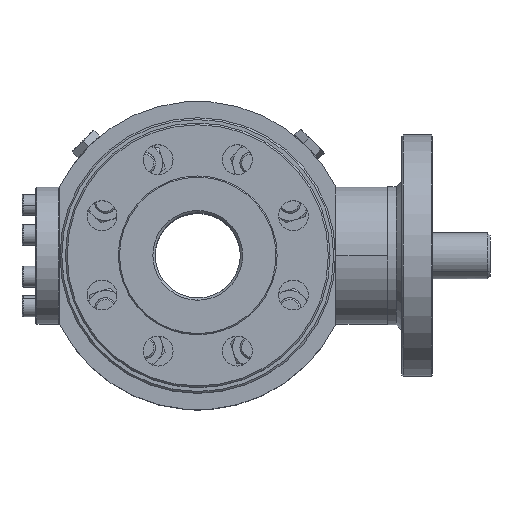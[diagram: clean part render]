
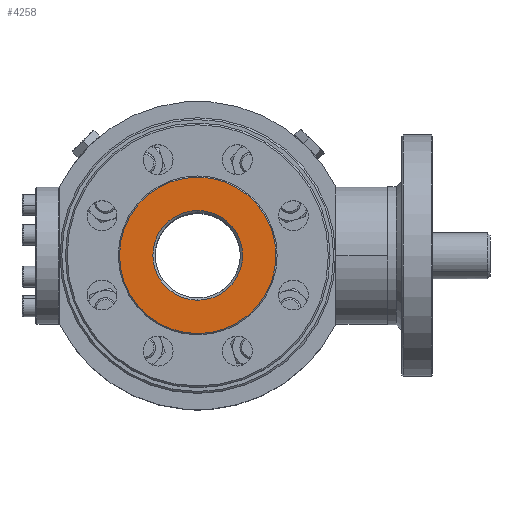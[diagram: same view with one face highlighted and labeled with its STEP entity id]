
A CAD part, top view. The second image highlights one B-rep face of the part: STEP entity #4258.
In plain terms, the highlighted planar face has unit normal (0, 0, 1) as drawn and (0, -1, 0) by its records, which use the part's own axes.
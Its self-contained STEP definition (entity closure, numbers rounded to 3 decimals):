
#1366 = DIRECTION ( 'NONE',  ( 0., 1., 0. ) ) ;
#3113 = DIRECTION ( 'NONE',  ( 0., 0., -1. ) ) ;
#4258 = ADVANCED_FACE ( 'NONE', ( #24577, #23434 ), #37201, .F. ) ;
#4806 = VERTEX_POINT ( 'NONE', #7836 ) ;
#5555 = AXIS2_PLACEMENT_3D ( 'NONE', #11950, #37190, #15590 ) ;
#6113 = CIRCLE ( 'NONE', #34000, 68. ) ;
#6926 = EDGE_CURVE ( 'NONE', #15364, #4806, #23301, .T. ) ;
#7503 = AXIS2_PLACEMENT_3D ( 'NONE', #44640, #1366, #26616 ) ;
#7836 = CARTESIAN_POINT ( 'NONE',  ( 0., 1.5, -68. ) ) ;
#8532 = CARTESIAN_POINT ( 'NONE',  ( 0., 1.5, 0. ) ) ;
#8836 = CARTESIAN_POINT ( 'NONE',  ( 0., 1.5, 68. ) ) ;
#9902 = CARTESIAN_POINT ( 'NONE',  ( 0., 1.5, -39. ) ) ;
#11845 = CARTESIAN_POINT ( 'NONE',  ( 0., 1.5, 0. ) ) ;
#11950 = CARTESIAN_POINT ( 'NONE',  ( 0., 1.5, 0. ) ) ;
#12101 = CARTESIAN_POINT ( 'NONE',  ( 0., 1.5, 39. ) ) ;
#12180 = DIRECTION ( 'NONE',  ( 0., 0., -1. ) ) ;
#12242 = EDGE_CURVE ( 'NONE', #12317, #41387, #16581, .T. ) ;
#12317 = VERTEX_POINT ( 'NONE', #12101 ) ;
#15364 = VERTEX_POINT ( 'NONE', #8836 ) ;
#15474 = DIRECTION ( 'NONE',  ( 0., 0., -1. ) ) ;
#15590 = DIRECTION ( 'NONE',  ( 0., 0., -1. ) ) ;
#16581 = CIRCLE ( 'NONE', #5555, 39. ) ;
#16608 = AXIS2_PLACEMENT_3D ( 'NONE', #46392, #24748, #3113 ) ;
#17491 = EDGE_LOOP ( 'NONE', ( #45534, #44867 ) ) ;
#21217 = ORIENTED_EDGE ( 'NONE', *, *, #12242, .F. ) ;
#21364 = EDGE_CURVE ( 'NONE', #41387, #12317, #41960, .T. ) ;
#23301 = CIRCLE ( 'NONE', #16608, 68. ) ;
#23434 = FACE_OUTER_BOUND ( 'NONE', #17491, .T. ) ;
#24577 = FACE_BOUND ( 'NONE', #42727, .T. ) ;
#24748 = DIRECTION ( 'NONE',  ( 0., -1., 0. ) ) ;
#26616 = DIRECTION ( 'NONE',  ( 0., 0., 1. ) ) ;
#28168 = EDGE_CURVE ( 'NONE', #4806, #15364, #6113, .T. ) ;
#33781 = DIRECTION ( 'NONE',  ( 0., -1., 0. ) ) ;
#34000 = AXIS2_PLACEMENT_3D ( 'NONE', #11845, #37065, #15474 ) ;
#37065 = DIRECTION ( 'NONE',  ( 0., -1., 0. ) ) ;
#37190 = DIRECTION ( 'NONE',  ( 0., -1., 0. ) ) ;
#37201 = PLANE ( 'NONE',  #7503 ) ;
#41387 = VERTEX_POINT ( 'NONE', #9902 ) ;
#41960 = CIRCLE ( 'NONE', #43879, 39. ) ;
#42727 = EDGE_LOOP ( 'NONE', ( #44082, #21217 ) ) ;
#43879 = AXIS2_PLACEMENT_3D ( 'NONE', #8532, #33781, #12180 ) ;
#44082 = ORIENTED_EDGE ( 'NONE', *, *, #21364, .F. ) ;
#44640 = CARTESIAN_POINT ( 'NONE',  ( -68., 1.5, 0. ) ) ;
#44867 = ORIENTED_EDGE ( 'NONE', *, *, #28168, .T. ) ;
#45534 = ORIENTED_EDGE ( 'NONE', *, *, #6926, .T. ) ;
#46392 = CARTESIAN_POINT ( 'NONE',  ( 0., 1.5, 0. ) ) ;
